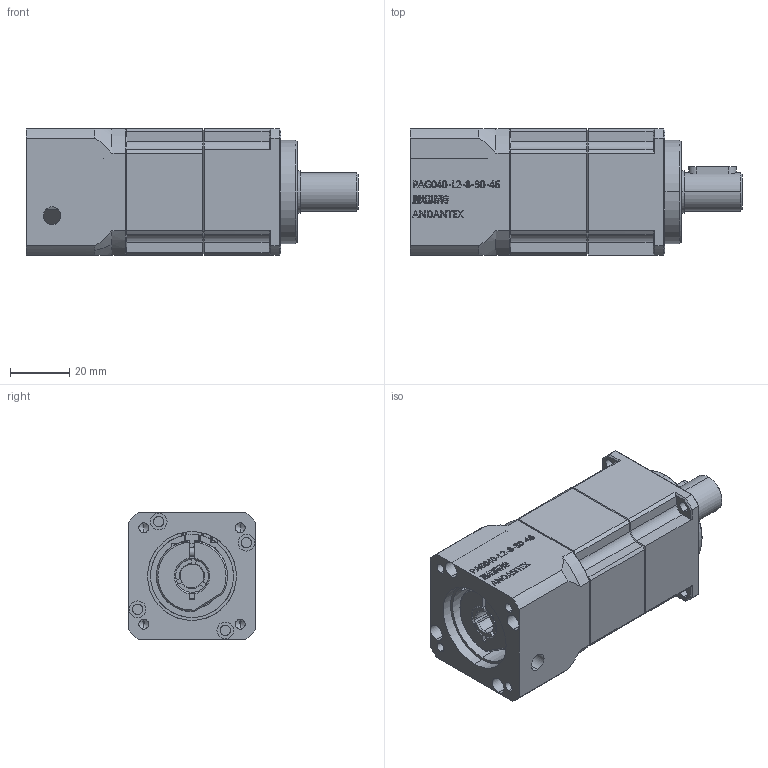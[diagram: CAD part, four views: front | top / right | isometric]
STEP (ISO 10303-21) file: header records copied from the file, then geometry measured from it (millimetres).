
FILE_DESCRIPTION (( 'STEP AP203' ), '1' );
FILE_NAME ('PAG040-L2-8-30-46.STEP', '2022-07-18T07:11:06', ( 'Windows User' ), ( 'P R C' ), 'SwSTEP 2.0', 'SolidWorks 2016', '' );
FILE_SCHEMA (( 'CONFIG_CONTROL_DESIGN' ));
Length unit declared in the file: millimetre
Products named in the file (8): PAG040-CQ01（本体齿圈)_PD42-CQ01+CQ02; PAG040-WZ01(帣釱)_1123; PAG040-CLZ05(喘謫粣); PAG040-SJH(坶踡遠); M3x12; 旮僱⑩粣創61902-2Z; 5X5X16; PAG040-L2-8-30-46
Assembly tree (7 placements, depth 2):
  PAG040-L2-8-30-46
    PAG040-CQ01（本体齿圈)_PD42-CQ01+CQ02
    PAG040-WZ01(帣釱)_1123
    PAG040-CLZ05(喘謫粣)
    PAG040-SJH(坶踡遠)
    M3x12
    旮僱⑩粣創61902-2Z
    5X5X16
Bounding box: 112 x 42.6 x 42.6 mm (x, y, z)
Volume: 139114.7 mm3; surface area: 39545.4 mm2
Topology: 24 solids, 24 shells, 1319 faces, 3684 edges, 2426 vertices
Faces by surface type: plane 699, bspline 238, cylinder 188, sphere 85, cone 62, torus 47
Entity records: 55389 total; most frequent: CARTESIAN_POINT 22254, ORIENTED_EDGE 7348, DIRECTION 5746, EDGE_CURVE 3674, VERTEX_POINT 2426, AXIS2_PLACEMENT_3D 1917, VECTOR 1912, LINE 1912
